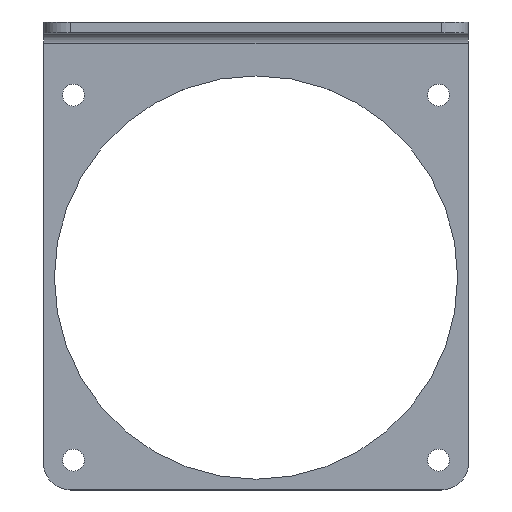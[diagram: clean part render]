
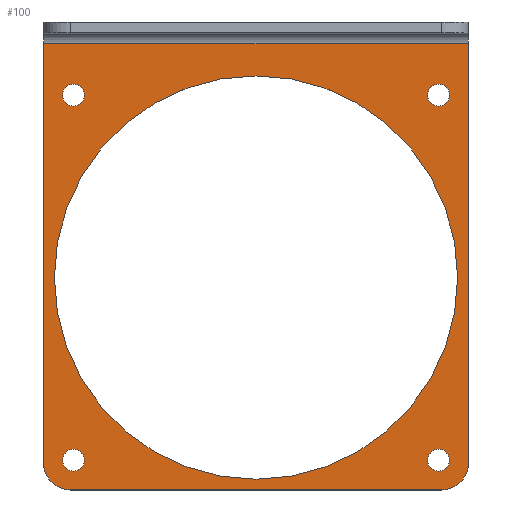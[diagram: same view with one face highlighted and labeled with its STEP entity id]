
A CAD part, top view. The second image highlights one B-rep face of the part: STEP entity #100.
In plain terms, the highlighted planar face has unit normal (0, 0, 1).
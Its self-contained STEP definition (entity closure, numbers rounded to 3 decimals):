
#66=FACE_BOUND('',#145,.T.);
#67=FACE_BOUND('',#146,.T.);
#68=FACE_BOUND('',#147,.T.);
#69=FACE_BOUND('',#148,.T.);
#70=FACE_BOUND('',#149,.T.);
#71=FACE_BOUND('',#150,.T.);
#100=ADVANCED_FACE('',(#66,#67,#68,#69,#70,#71),#117,.T.);
#117=PLANE('',#475);
#145=EDGE_LOOP('',(#236,#237,#238,#239,#240,#241));
#146=EDGE_LOOP('',(#242));
#147=EDGE_LOOP('',(#243));
#148=EDGE_LOOP('',(#244));
#149=EDGE_LOOP('',(#245));
#150=EDGE_LOOP('',(#246));
#182=CIRCLE('',#458,2.05);
#184=CIRCLE('',#461,2.05);
#186=CIRCLE('',#464,2.05);
#188=CIRCLE('',#467,37.5);
#190=CIRCLE('',#470,2.05);
#192=CIRCLE('',#473,5.);
#193=CIRCLE('',#474,5.);
#236=ORIENTED_EDGE('',*,*,#360,.T.);
#237=ORIENTED_EDGE('',*,*,#380,.T.);
#238=ORIENTED_EDGE('',*,*,#366,.T.);
#239=ORIENTED_EDGE('',*,*,#381,.T.);
#240=ORIENTED_EDGE('',*,*,#356,.T.);
#241=ORIENTED_EDGE('',*,*,#382,.T.);
#242=ORIENTED_EDGE('',*,*,#376,.F.);
#243=ORIENTED_EDGE('',*,*,#374,.F.);
#244=ORIENTED_EDGE('',*,*,#372,.F.);
#245=ORIENTED_EDGE('',*,*,#370,.F.);
#246=ORIENTED_EDGE('',*,*,#378,.F.);
#316=VERTEX_POINT('',#640);
#317=VERTEX_POINT('',#642);
#320=VERTEX_POINT('',#649);
#321=VERTEX_POINT('',#651);
#326=VERTEX_POINT('',#662);
#327=VERTEX_POINT('',#664);
#330=VERTEX_POINT('',#672);
#332=VERTEX_POINT('',#677);
#334=VERTEX_POINT('',#682);
#336=VERTEX_POINT('',#687);
#338=VERTEX_POINT('',#692);
#356=EDGE_CURVE('',#317,#316,#407,.T.);
#360=EDGE_CURVE('',#321,#320,#410,.T.);
#366=EDGE_CURVE('',#327,#326,#415,.T.);
#370=EDGE_CURVE('',#330,#330,#182,.T.);
#372=EDGE_CURVE('',#332,#332,#184,.T.);
#374=EDGE_CURVE('',#334,#334,#186,.T.);
#376=EDGE_CURVE('',#336,#336,#188,.T.);
#378=EDGE_CURVE('',#338,#338,#190,.T.);
#380=EDGE_CURVE('',#320,#327,#192,.T.);
#381=EDGE_CURVE('',#326,#317,#418,.T.);
#382=EDGE_CURVE('',#316,#321,#193,.T.);
#407=LINE('',#641,#431);
#410=LINE('',#650,#434);
#415=LINE('',#663,#439);
#418=LINE('',#697,#442);
#431=VECTOR('',#510,1.);
#434=VECTOR('',#517,1.);
#439=VECTOR('',#526,1.);
#442=VECTOR('',#565,1.);
#458=AXIS2_PLACEMENT_3D('',#671,#533,#534);
#461=AXIS2_PLACEMENT_3D('',#676,#539,#540);
#464=AXIS2_PLACEMENT_3D('',#681,#545,#546);
#467=AXIS2_PLACEMENT_3D('',#686,#551,#552);
#470=AXIS2_PLACEMENT_3D('',#691,#557,#558);
#473=AXIS2_PLACEMENT_3D('',#696,#563,#564);
#474=AXIS2_PLACEMENT_3D('',#698,#566,#567);
#475=AXIS2_PLACEMENT_3D('',#699,#568,#569);
#510=DIRECTION('',(0.,-1.,0.));
#517=DIRECTION('',(1.,0.,0.));
#526=DIRECTION('',(0.,1.,0.));
#533=DIRECTION('',(0.,0.,1.));
#534=DIRECTION('',(0.,-1.,0.));
#539=DIRECTION('',(0.,0.,1.));
#540=DIRECTION('',(0.,1.,0.));
#545=DIRECTION('',(0.,0.,1.));
#546=DIRECTION('',(-1.,0.,0.));
#551=DIRECTION('',(0.,0.,1.));
#552=DIRECTION('',(1.,0.,0.));
#557=DIRECTION('',(0.,0.,1.));
#558=DIRECTION('',(1.,0.,0.));
#563=DIRECTION('',(0.,0.,1.));
#564=DIRECTION('',(1.,0.,0.));
#565=DIRECTION('',(-1.,0.,0.));
#566=DIRECTION('',(0.,0.,1.));
#567=DIRECTION('',(1.,0.,0.));
#568=DIRECTION('',(0.,0.,1.));
#569=DIRECTION('',(1.,0.,0.));
#640=CARTESIAN_POINT('',(-39.5,-34.5,2.));
#641=CARTESIAN_POINT('',(-39.5,39.5,2.));
#642=CARTESIAN_POINT('',(-39.5,43.5,2.));
#649=CARTESIAN_POINT('',(34.5,-39.5,2.));
#650=CARTESIAN_POINT('',(-39.5,-39.5,2.));
#651=CARTESIAN_POINT('',(-34.5,-39.5,2.));
#662=CARTESIAN_POINT('',(39.5,43.5,2.));
#663=CARTESIAN_POINT('',(39.5,-39.5,2.));
#664=CARTESIAN_POINT('',(39.5,-34.5,2.));
#671=CARTESIAN_POINT('',(33.941,-33.941,2.));
#672=CARTESIAN_POINT('',(33.941,-35.991,2.));
#676=CARTESIAN_POINT('',(-33.941,33.941,2.));
#677=CARTESIAN_POINT('',(-33.941,35.991,2.));
#681=CARTESIAN_POINT('',(-33.941,-33.941,2.));
#682=CARTESIAN_POINT('',(-35.991,-33.941,2.));
#686=CARTESIAN_POINT('',(0.,0.,2.));
#687=CARTESIAN_POINT('',(37.5,0.,2.));
#691=CARTESIAN_POINT('',(33.941,33.941,2.));
#692=CARTESIAN_POINT('',(35.991,33.941,2.));
#696=CARTESIAN_POINT('',(34.5,-34.5,2.));
#697=CARTESIAN_POINT('',(0.,43.5,2.));
#698=CARTESIAN_POINT('',(-34.5,-34.5,2.));
#699=CARTESIAN_POINT('',(0.,0.,2.));
